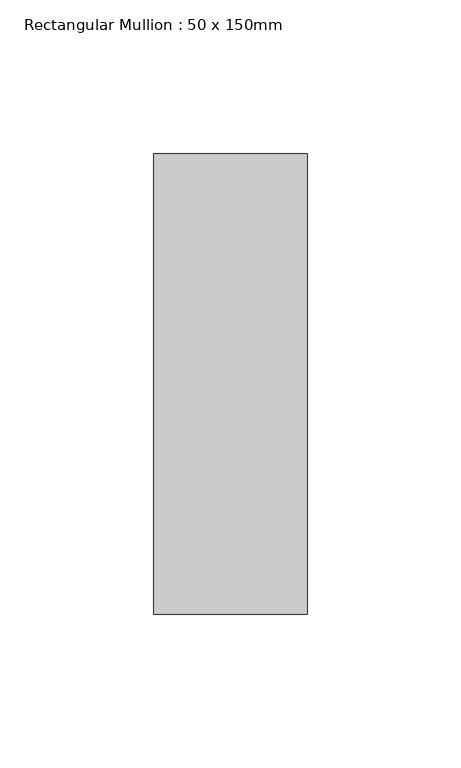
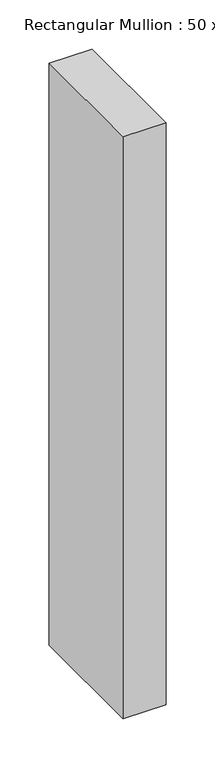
"""IFC4 building model written with IfcOpenShell, lengths in millimetres: member geometry, Rectangular Mullion : 50 x 150mm."""

import ifcopenshell
import ifcopenshell.guid

model = None  # the IFC model being written
_history = None  # IfcOwnerHistory: only IFC2X3 demands one
_inside = {}  # id of a spatial element -> (the spatial element, [elements in it])
_under = {}  # id of a project, library or spatial element -> (it, [spatial elements below it])
_declared = {}  # id of a project -> (the project, [libraries it declares])
_typed = {}  # id of a type object -> (the type object, [elements of that type])
_made_of = {}  # id of a material, layer set ... -> (it, [elements and type objects made of it])


def new_model(schema):
    """Start an empty IFC model of exactly this schema.

    Asked for "IFC4X3", IfcOpenShell would pick the latest addendum, in which some entities
    have other attributes; the version numbers below select the first issue.
    IFC2X3 requires an IfcOwnerHistory on every rooted entity: one is made here for all.
    """
    global model, _history
    if schema == "IFC4X3":
        model = ifcopenshell.file(schema_version=(4, 3, 0, 0))
    else:
        model = ifcopenshell.file(schema=schema)
    _inside.clear()
    _under.clear()
    _declared.clear()
    _typed.clear()
    _made_of.clear()
    _history = None
    if model.schema == "IFC2X3":
        org = make("IfcOrganization", Name="unknown")
        user = make(
            "IfcPersonAndOrganization",
            ThePerson=make("IfcPerson", FamilyName="unknown"),
            TheOrganization=org,
        )
        app = make(
            "IfcApplication",
            ApplicationDeveloper=org,
            Version="unknown",
            ApplicationFullName="unknown",
            ApplicationIdentifier="unknown",
        )
        _history = make(
            "IfcOwnerHistory",
            OwningUser=user,
            OwningApplication=app,
            ChangeAction="ADDED",
            CreationDate=0,
        )
    return model


def make(cls, **values):
    """One entity of the class cls with the attributes given. An attribute that is None is left unset."""
    return model.create_entity(
        cls, **{name: value for name, value in values.items() if value is not None}
    )


def rooted(cls, **values):
    """An entity with a GlobalId (a new one), such as an element, a storey or a relation."""
    return make(cls, GlobalId=ifcopenshell.guid.new(), OwnerHistory=_history, **values)


def si_unit(unit_type, name, prefix=None):
    """IfcSIUnit, for example si_unit("LENGTHUNIT", "METRE", prefix="MILLI")."""
    return make("IfcSIUnit", UnitType=unit_type, Prefix=prefix, Name=name)


def assignment(units):
    """IfcUnitAssignment: the units of a project."""
    return None if units is None else make("IfcUnitAssignment", Units=units)


def point(xyz):
    """IfcCartesianPoint."""
    return None if xyz is None else make("IfcCartesianPoint", Coordinates=xyz)


def direction(xyz):
    """IfcDirection."""
    return None if xyz is None else make("IfcDirection", DirectionRatios=xyz)


def frame(location, z_axis=None, x_axis=None):
    """IfcAxis2Placement3D, a coordinate frame: its origin and axes. An axis left out is left unset."""
    return make(
        "IfcAxis2Placement3D",
        Location=point(location),
        Axis=direction(z_axis),
        RefDirection=direction(x_axis),
    )


def origin():
    """The frame at (0, 0, 0) with its axes left unset."""
    return frame((0.0, 0.0, 0.0))


def place(relative_to, where):
    """IfcLocalPlacement: puts the frame where relative to a parent placement (None: the world)."""
    return make(
        "IfcLocalPlacement", PlacementRelTo=relative_to, RelativePlacement=where
    )


def context(
    kind, dimensions, precision=None, world=None, true_north=None, identifier=None
):
    """IfcGeometricRepresentationContext, for example the 3D "Model" context."""
    return make(
        "IfcGeometricRepresentationContext",
        ContextIdentifier=identifier,
        ContextType=kind,
        CoordinateSpaceDimension=dimensions,
        Precision=precision,
        WorldCoordinateSystem=world,
        TrueNorth=true_north,
    )


def project(units=None, contexts=None):
    """IfcProject with its units and contexts."""
    return rooted(
        "IfcProject",
        Name="project",
        RepresentationContexts=contexts,
        UnitsInContext=assignment(units),
    )


def spatial(cls, under=None, at=None, **own):
    """A site, building, storey or space (cls), placed at a placement, below another one or the project."""
    s = rooted(cls, ObjectPlacement=at, **own)
    if under is not None:
        _under.setdefault(under.id(), (under, []))[1].append(s)
    return s


def polyline(points):
    """IfcPolyline through the points."""
    return make("IfcPolyline", Points=[point(p) for p in points])


def outline(outer, holes=None, kind="AREA"):
    """IfcArbitraryClosedProfileDef: a profile drawn as a closed curve; with holes, ...WithVoids."""
    if holes is None:
        return make("IfcArbitraryClosedProfileDef", ProfileType=kind, OuterCurve=outer)
    return make(
        "IfcArbitraryProfileDefWithVoids",
        ProfileType=kind,
        OuterCurve=outer,
        InnerCurves=holes,
    )


def extrude(swept, where, along, depth):
    """IfcExtrudedAreaSolid: the profile swept, set in the frame where, extruded along a direction by depth."""
    return make(
        "IfcExtrudedAreaSolid",
        SweptArea=swept,
        Position=where,
        ExtrudedDirection=direction(along),
        Depth=depth,
    )


def shape(context_of_items, identifier, shape_type, items):
    """IfcShapeRepresentation: the items that make up one representation, for example the "Body"."""
    return make(
        "IfcShapeRepresentation",
        ContextOfItems=context_of_items,
        RepresentationIdentifier=identifier,
        RepresentationType=shape_type,
        Items=items,
    )


def source(mapping_origin, context_of_items, identifier, shape_type, items):
    """IfcRepresentationMap: a shape defined once, which mapped items show again and again."""
    return make(
        "IfcRepresentationMap",
        MappingOrigin=mapping_origin,
        MappedRepresentation=shape(context_of_items, identifier, shape_type, items),
    )


def transform(
    local_origin,
    x_axis=None,
    y_axis=None,
    z_axis=None,
    scale=None,
    scale2=None,
    scale3=None,
    uniform=True,
):
    """IfcCartesianTransformationOperator3D, or its non-uniform kind. x_axis, y_axis, z_axis: its Axis1, 2, 3."""
    if uniform:
        return make(
            "IfcCartesianTransformationOperator3D",
            Axis1=direction(x_axis),
            Axis2=direction(y_axis),
            LocalOrigin=point(local_origin),
            Scale=scale,
            Axis3=direction(z_axis),
        )
    return make(
        "IfcCartesianTransformationOperator3DnonUniform",
        Axis1=direction(x_axis),
        Axis2=direction(y_axis),
        LocalOrigin=point(local_origin),
        Scale=scale,
        Axis3=direction(z_axis),
        Scale2=scale2,
        Scale3=scale3,
    )


def mapped(mapping_source, mapping_target):
    """IfcMappedItem: shows the shape of a source again, moved by a transform."""
    return make(
        "IfcMappedItem", MappingSource=mapping_source, MappingTarget=mapping_target
    )


def made_of(thing, what):
    """Note that an element or type object is made of a material, layer set ...; save() writes the relation."""
    if what is not None:
        _made_of.setdefault(what.id(), (what, []))[1].append(thing)
    return thing


def element(
    cls,
    number,
    at=None,
    inside=None,
    cuts=None,
    type_object=None,
    material=None,
    context=None,
    identifier="Body",
    shape_type=None,
    held_by="IfcProductDefinitionShape",
    body=None,
    shapes=None,
    **own,
):
    """One element of the class cls, such as IfcWall. Its Tag is "e" and its number.

    at: its placement. inside: the storey or other place that contains it. cuts: it is an
    opening in that element (IfcRelVoidsElement). A single representation is given by context,
    identifier, shape_type and body (its items); several are given by shapes. held_by: the class
    of the entity that holds the representations. save() writes the other relations.
    """
    e = rooted(cls, Tag="e%d" % number, ObjectPlacement=at, **own)
    if body is not None:
        shapes = [shape(context, identifier, shape_type, body)]
    if shapes is not None:
        e.Representation = make(held_by, Representations=shapes)
    if inside is not None:
        _inside.setdefault(inside.id(), (inside, []))[1].append(e)
    if cuts is not None:
        rooted(
            "IfcRelVoidsElement", RelatingBuildingElement=cuts, RelatedOpeningElement=e
        )
    if type_object is not None:
        _typed.setdefault(type_object.id(), (type_object, []))[1].append(e)
    return made_of(e, material)


def aggregate(whole, parts):
    """IfcRelAggregates: a whole, such as a stair, and the parts it consists of."""
    return rooted("IfcRelAggregates", RelatingObject=whole, RelatedObjects=parts)


def save(model, path):
    """Write the relations noted so far, then the file.

    IfcRelAggregates (storeys below a building ...), IfcRelContainedInSpatialStructure (elements
    in a storey), IfcRelDefinesByType, IfcRelAssociatesMaterial and IfcRelDeclares: one each for
    every whole, place, type object, material and project.
    """
    for whole, parts in _under.values():
        aggregate(whole, parts)
    for where, things in _inside.values():
        rooted(
            "IfcRelContainedInSpatialStructure",
            RelatedElements=things,
            RelatingStructure=where,
        )
    for kind, things in _typed.values():
        rooted("IfcRelDefinesByType", RelatedObjects=things, RelatingType=kind)
    for what, things in _made_of.values():
        rooted("IfcRelAssociatesMaterial", RelatedObjects=things, RelatingMaterial=what)
    for by, libraries in _declared.values():
        rooted("IfcRelDeclares", RelatingContext=by, RelatedDefinitions=libraries)
    model.write(path)


def rectangular_mullion_50_x_150mm_68280b9f(model_context):
    return source(origin(), model_context, "Body", "SweptSolid", [
        extrude(outline(polyline([(0.0, 75.0), (0.0, -75.0), (-50.0, -75.0), (-50.0, 75.0), (0.0, 75.0)])), frame((0.0, 0.0, -720.0), z_axis=(0.0, 0.0, 1.0), x_axis=(1.0, 0.0, 0.0)), (0.0, 0.0, 1.0), 720.0),
    ])


if __name__ == "__main__":
    model = new_model("IFC4")
    model_context = context("Model", 3, world=origin())
    ifc_project = project(units=[si_unit("LENGTHUNIT", "METRE", prefix="MILLI")], contexts=[model_context])
    site = spatial("IfcSite", under=ifc_project)
    building = spatial("IfcBuilding", under=site)
    placement = place(None, origin())
    rectangular_mullion_50_x_150mm_shape = rectangular_mullion_50_x_150mm_68280b9f(model_context)
    element("IfcMember", 1, ObjectType="Rectangular Mullion : 50 x 150mm", at=placement, inside=building, context=model_context, shape_type="MappedRepresentation", body=[
        mapped(rectangular_mullion_50_x_150mm_shape, transform((0.0, 0.0, 0.0), x_axis=(1.0, 0.0, 0.0), y_axis=(0.0, 1.0, 0.0), z_axis=(0.0, 0.0, 1.0))),
    ])
    save(model, "model.ifc")
